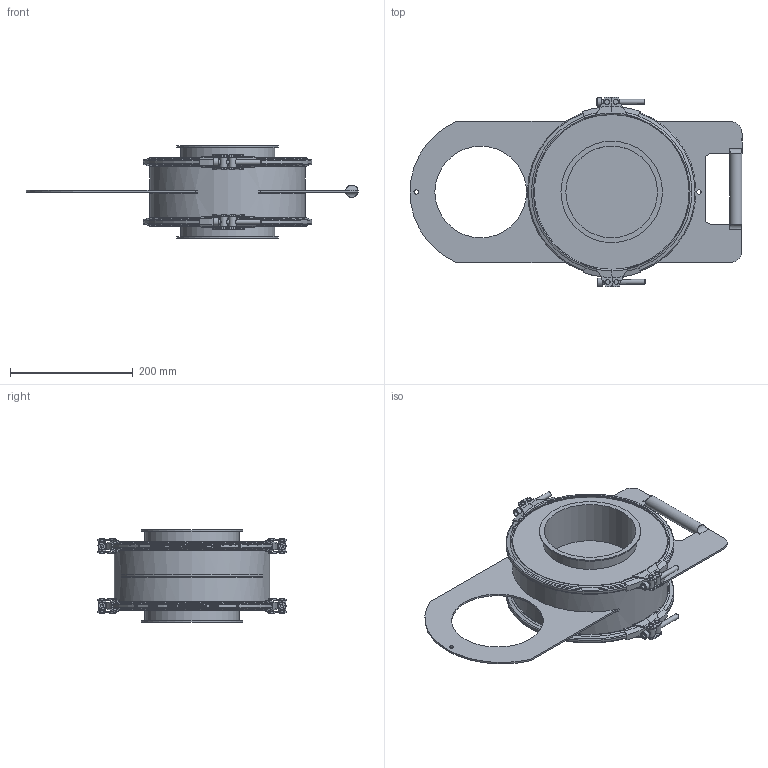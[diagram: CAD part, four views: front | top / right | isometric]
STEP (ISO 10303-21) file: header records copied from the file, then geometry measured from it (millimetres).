
FILE_DESCRIPTION((''),'2;1');
FILE_NAME('U:\Wolfgang\Marcel-3D\fertig\Kapitel 9\1521081.stp','2011-10-11T12:55:52',('iwienholt'),(''),'Autodesk Inventor 2010','Autodesk Inventor 2010','');
FILE_SCHEMA(('AUTOMOTIVE_DESIGN { 1 0 10303 214 1 1 1 1 }'));
Length unit declared in the file: millimetre
Products named in the file (10): 1521081; Rohr DN150; Schieber DN150; 2522055; 2522055-1; Verschluss b=274; Verschlussrolle; VerschlussrolleGewinde; ISO 4762 M8 x 70; 2522055-Dichtmasse
Assembly tree (17 placements, depth 3):
  1521081
    Rohr DN150
    Schieber DN150
    2522055  x2
      2522055-1
      Verschluss b=274
      Verschlussrolle
      VerschlussrolleGewinde
      ISO 4762 M8 x 70
      2522055-Dichtmasse
Bounding box: 540 x 307.99 x 150 mm (x, y, z)
Volume: 1105967.8 mm3; surface area: 865476.7 mm2
Topology: 28 solids, 28 shells, 870 faces, 2306 edges, 1522 vertices
Faces by surface type: cylinder 269, plane 246, bspline 175, cone 144, torus 36
Full cylindrical faces by diameter (mm): 5 x16, 6 x4, 8 x20, 12 x8, 13 x4, 20 x1, 149 x3, 153 x4, 165 x1, 249 x1, 252 x2, 253 x1, 265 x1, 270 x2
Entity records: 7263 total; most frequent: CARTESIAN_POINT 2393, DIRECTION 978, ORIENTED_EDGE 890, EDGE_CURVE 445, AXIS2_PLACEMENT_3D 392, VERTEX_POINT 317, EDGE_LOOP 274, FACE_OUTER_BOUND 199
